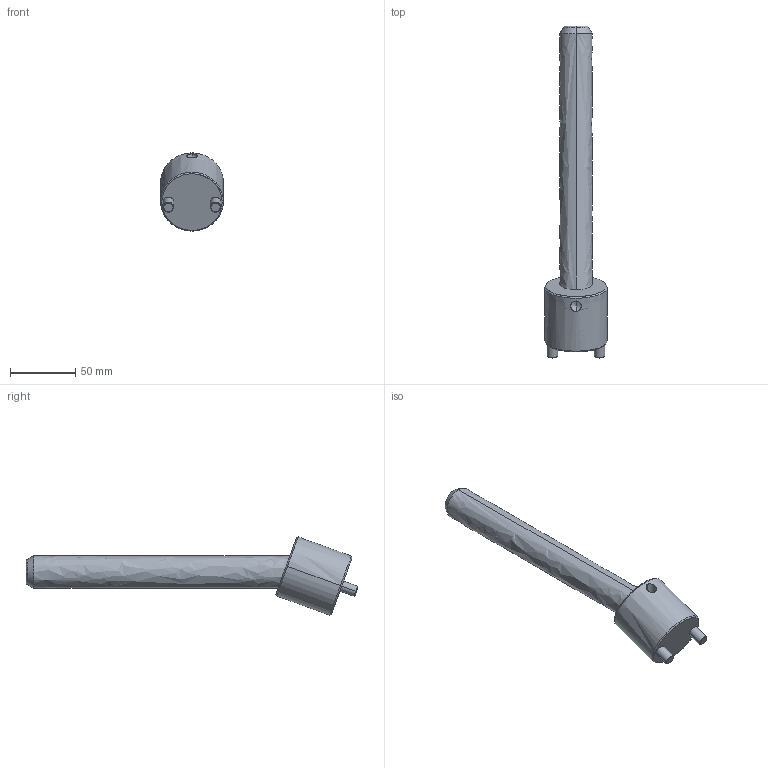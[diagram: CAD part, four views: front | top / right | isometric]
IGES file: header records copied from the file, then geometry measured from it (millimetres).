
Start section: START RECORD GO HERE.
Global section: file name: CI2025200.igs; native system: DASSAULT SYSTEMES CATIA V5 R20 - www.3ds.com; preprocessor: CATIA Version 5 Release 20 ; author: r.borello; organization: CFTORINO; date: 20190624.084502; units: millimetre
Bounding box: 48 x 253.47 x 59.81 mm (x, y, z)
Surface area: 33239.5 mm2 (no closed solid volume)
Topology: 0 solids, 0 shells, 39 faces, 162 edges, 160 vertices
Faces by surface type: revolution 32, plane 7
